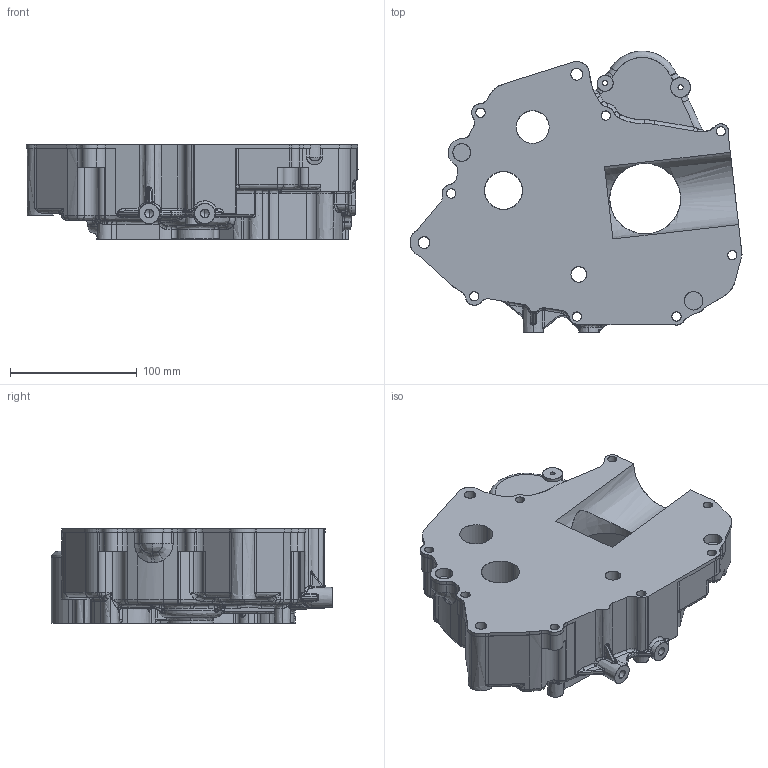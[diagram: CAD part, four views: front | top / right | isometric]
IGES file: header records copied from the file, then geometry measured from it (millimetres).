
Start section: SolidWorks IGES file using analytic representation for surfaces
Bounding box: 262.3 x 222.47 x 75 mm (x, y, z)
Surface area: 199174.2 mm2 (no closed solid volume)
Topology: 0 solids, 0 shells, 1310 faces, 13685 edges, 13611 vertices
Faces by surface type: bspline 728, revolution 582
